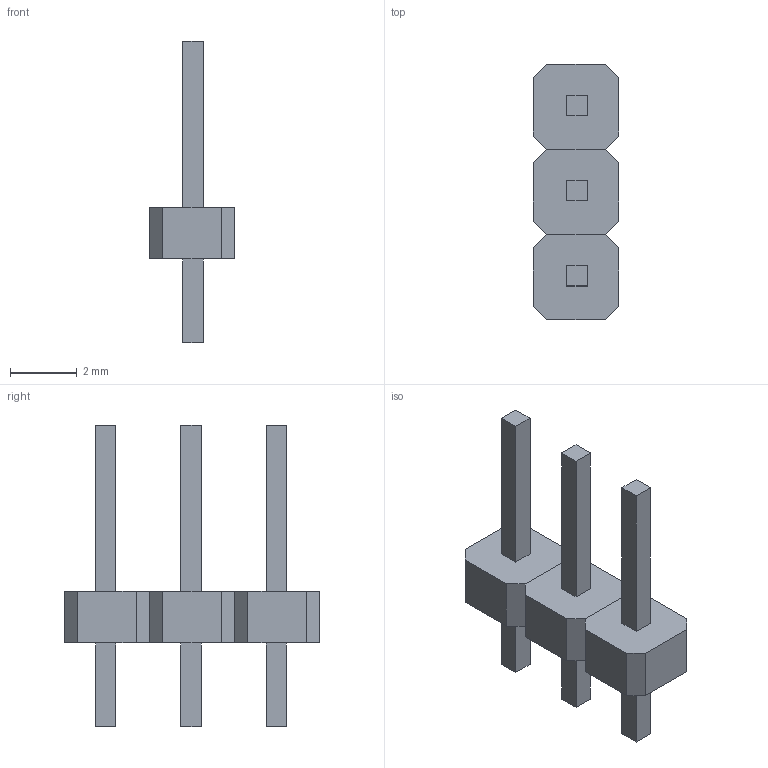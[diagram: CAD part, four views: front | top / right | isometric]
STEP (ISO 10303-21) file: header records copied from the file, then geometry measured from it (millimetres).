
FILE_DESCRIPTION(('FreeCAD Model'),'2;1');
FILE_NAME('Open CASCADE Shape Model','2025-02-25T20:04:23',( 'Krisjanis Rijnieks'),(''),'Open CASCADE STEP processor 7.7', 'FreeCAD','Unknown');
FILE_SCHEMA(('AUTOMOTIVE_DESIGN { 1 0 10303 214 1 1 1 1 }'));
Length unit declared in the file: millimetre
Products named in the file (7): 01x03_P2.54mm_Vertical_THT; 01x01_P2.54mm_Vertical_THT001; PinHeader001; 01x01_P2.54mm_Vertical_THT002; PinHeader002; 01x01_P2.54mm_Vertical_THT003; PinHeader003
Assembly tree (6 placements, depth 3):
  01x03_P2.54mm_Vertical_THT
    01x01_P2.54mm_Vertical_THT001
      PinHeader001
    01x01_P2.54mm_Vertical_THT002
      PinHeader002
    01x01_P2.54mm_Vertical_THT003
      PinHeader003
Bounding box: 2.54 x 7.62 x 9 mm (x, y, z)
Volume: 36.4 mm3; surface area: 133.1 mm2
Topology: 3 solids, 3 shells, 60 faces, 144 edges, 96 vertices
Faces by surface type: plane 60
Entity records: 2065 total; most frequent: CARTESIAN_POINT 307, ORIENTED_EDGE 288, DIRECTION 278, EDGE_CURVE 144, LINE 144, VECTOR 144, VERTEX_POINT 96, AXIS2_PLACEMENT_3D 67
